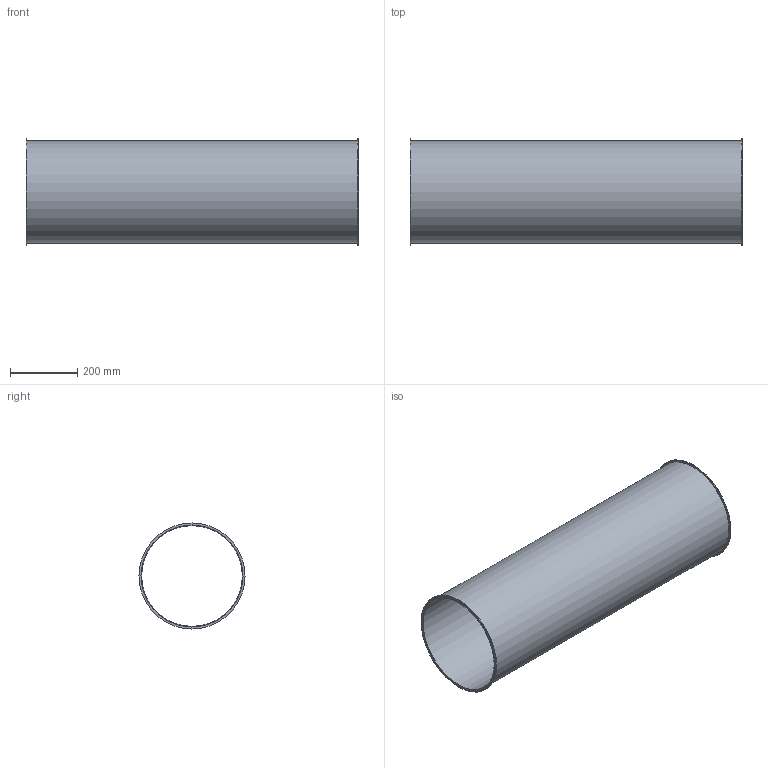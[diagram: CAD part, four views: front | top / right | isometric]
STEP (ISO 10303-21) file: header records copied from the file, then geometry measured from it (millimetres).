
FILE_DESCRIPTION((''),'2;1');
FILE_NAME('U:\Wolfgang\Marcel-3D\fertig\Kapitel 1\3021002.stp','2010-05-31T11:37:08',('TK2'),(''),'Autodesk Inventor 2010','Autodesk Inventor 2010','');
FILE_SCHEMA(('AUTOMOTIVE_DESIGN { 1 0 10303 214 1 1 1 1 }'));
Length unit declared in the file: millimetre
Products named in the file (1): 3021002
Bounding box: 986 x 315 x 315 mm (x, y, z)
Volume: 1888059.5 mm3; surface area: 1891992.8 mm2
Topology: 1 solids, 1 shells, 8 faces, 12 edges, 8 vertices
Faces by surface type: cylinder 4, plane 4
Full cylindrical faces by diameter (mm): 299 x1, 303 x1, 315 x2
Entity records: 194 total; most frequent: DIRECTION 34, CARTESIAN_POINT 25, AXIS2_PLACEMENT_3D 17, ORIENTED_EDGE 16, EDGE_LOOP 16, VERTEX_POINT 8, CIRCLE 8, EDGE_CURVE 8
